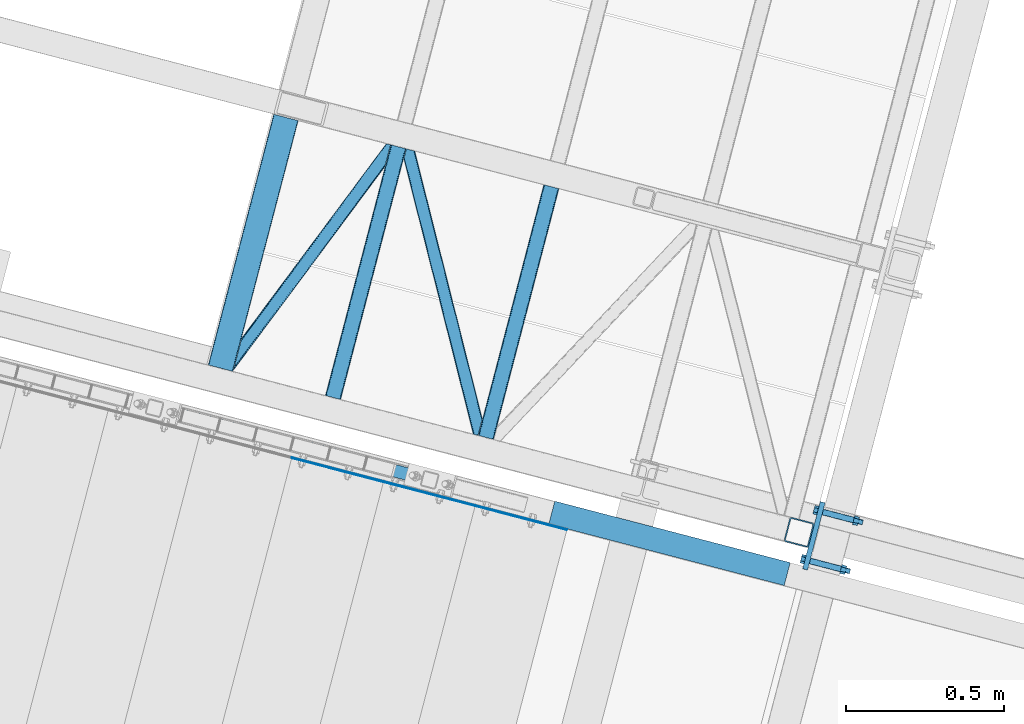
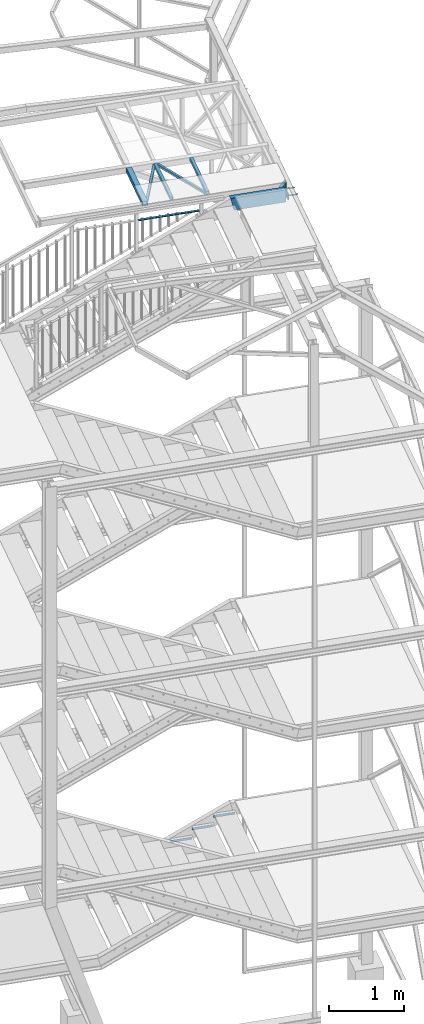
# One storey, part 81 of 169: 12 discrete accessories, 1 mechanical fastener, 6 elements without a shape of their own.
"""IFC2X3 building model written with IfcOpenShell, lengths in millimetres."""

from ifc_helpers import new_model, si_unit, frame, frame_2d, origin_with_axes, origin_2d_with_axis, place, context, subcontext, project, spatial, polyline, circle_curve, parameter, trimmed, segment, composite_curve, rectangle, hollow_rectangle, circle, u_section, outline, extrude, boolean, clip, halfspace, source, transform, mapped, material, type_object, element, aggregate, save


model = new_model("IFC2X3")

# Units and contexts
model_context = context("Model", 3, precision=1e-05, world=origin_with_axes())
body_context = subcontext(model_context, "Body", "Model", "MODEL_VIEW")
ifc_project = project(units=[si_unit("LENGTHUNIT", "METRE", prefix="MILLI"), si_unit("AREAUNIT", "SQUARE_METRE"), si_unit("VOLUMEUNIT", "CUBIC_METRE"), si_unit("MASSUNIT", "GRAM", prefix="KILO"), si_unit("TIMEUNIT", "SECOND"), si_unit("PLANEANGLEUNIT", "RADIAN"), si_unit("SOLIDANGLEUNIT", "STERADIAN"), si_unit("THERMODYNAMICTEMPERATUREUNIT", "DEGREE_CELSIUS"), si_unit("LUMINOUSINTENSITYUNIT", "LUMEN")], contexts=[model_context])

# Site, building, storey
site_placement = place(None, origin_with_axes())
site = spatial("IfcSite", under=ifc_project, at=site_placement, Name="Undefined", CompositionType="ELEMENT")
building_placement = place(site_placement, origin_with_axes())
building = spatial("IfcBuilding", under=site, at=building_placement, Name="Undefined", CompositionType="ELEMENT")
storey_placement = place(building_placement, origin_with_axes())
storey = spatial("IfcBuildingStorey", under=building, at=storey_placement, Name="Undefined", CompositionType="ELEMENT", Elevation=0.0)

# Assembly, discrete accessories
assembly_1_placement = place(storey_placement, origin_with_axes())
assembly_1 = element("IfcElementAssembly", 1, at=assembly_1_placement, inside=storey, Name="Steel Assembly", AssemblyPlace="NOTDEFINED", PredefinedType="RIGID_FRAME")
ifc_material_1 = material(Name="STEEL/S235")
discrete_accessory_type_1 = type_object("IfcDiscreteAccessoryType", Name="BLACHA")
discrete_accessory_1_placement = place(assembly_1_placement, frame((-23619.6925389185, 7802.58529070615, 13832.0645725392), z_axis=(-0.967563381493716, 0.252628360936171, -0.000118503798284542), x_axis=(0.252628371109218, 0.967563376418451, -0.000136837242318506)))
discrete_accessory_1 = element("IfcDiscreteAccessory", 2, at=discrete_accessory_1_placement, type_object=discrete_accessory_type_1, material=ifc_material_1, Name="BLACHA", ObjectType="BL16*100", context=body_context, shape_type="SweptSolid", body=[
    extrude(outline(polyline([(-2.8421709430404e-11, 50.0000000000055), (220.000000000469, 50.0000000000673), (220.000000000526, -49.9999999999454), (2.75122147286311e-11, -50.0000000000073), (-2.8421709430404e-11, 50.0000000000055)])), frame((4.54778590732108e-13, 0.0, -8.0), z_axis=(0.0, 0.0, 1.0), x_axis=(1.0, 0.0, 0.0)), (0.0, 0.0, 1.0), 16.0),
])
ifc_material_2 = material(Name="STEEL/S355")
discrete_accessory_type_2 = type_object("IfcDiscreteAccessoryType", Name="BEAM")
discrete_accessory_2_placement = place(assembly_1_placement, frame((-24895.1625822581, 9183.63611609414, 13995.6370238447), z_axis=(-3.45692487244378e-05, -0.000132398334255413, -0.999999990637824), x_axis=(-0.596941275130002, -0.802284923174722, 0.000126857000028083)))
discrete_accessory_2 = element("IfcDiscreteAccessory", 3, at=discrete_accessory_2_placement, type_object=discrete_accessory_type_2, material=ifc_material_2, Name="BEAM", ObjectType="SHS40*3", context=body_context, shape_type="CSG", body=[
    boolean("DIFFERENCE", boolean("DIFFERENCE", boolean("DIFFERENCE", boolean("DIFFERENCE", extrude(hollow_rectangle(XDim=40.0, YDim=40.0, WallThickness=3.0, InnerFilletRadius=3.0, OuterFilletRadius=6.0, at=origin_2d_with_axis()), frame((981.591567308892, 3.52627091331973e-12, -1.8190160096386e-12), z_axis=(-1.0, -3.46944695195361e-18, -1.38777878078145e-17), x_axis=(1.73472347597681e-18, -1.0, 0.0)), (0.0, 0.0, 1.0), 933.05), extrude(rectangle(XDim=82.0, YDim=82.0, at=origin_2d_with_axis()), frame((1123.75503580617, -57.4898587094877, 9.99999972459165), z_axis=(-0.927065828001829, 0.374898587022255, 4.63581631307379e-11), x_axis=(-0.374898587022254, -0.927065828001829, -1.56215044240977e-10)), (0.0, 0.0, 1.0), 306.7)), extrude(rectangle(XDim=52.0, YDim=52.0, at=origin_2d_with_axis()), frame((142.163468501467, -57.4898585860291, -5.01208772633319), z_axis=(-0.927065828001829, 0.374898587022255, 4.63581631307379e-11), x_axis=(-0.374898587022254, -0.927065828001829, -1.56215044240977e-10)), (0.0, 0.0, 1.0), 306.7)), halfspace(frame((142.595918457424, 339.283655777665, 9.99999977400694), z_axis=(-0.374898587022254, -0.927065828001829, -1.56215044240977e-10), x_axis=(0.0, 0.0, 1.0)), True)), halfspace(frame((42.4755557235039, -14.9959434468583, -1000.00000000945), z_axis=(0.927065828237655, -0.374898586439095, -5.81266221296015e-10), x_axis=(-0.374898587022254, -0.927065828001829, -1.56215044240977e-10)), True)),
])
discrete_accessory_3_placement = place(assembly_1_placement, frame((-24635.4675019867, 8175.32281435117, 13995.7615454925), z_axis=(-3.45692487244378e-05, -0.000132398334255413, -0.999999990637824), x_axis=(-0.244520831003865, 0.969644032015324, -0.000119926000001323)))
discrete_accessory_3 = element("IfcDiscreteAccessory", 4, at=discrete_accessory_3_placement, type_object=discrete_accessory_type_2, material=ifc_material_2, Name="BEAM", ObjectType="SHS40*3", context=body_context, shape_type="CSG", body=[
    boolean("DIFFERENCE", boolean("DIFFERENCE", boolean("DIFFERENCE", boolean("DIFFERENCE", extrude(hollow_rectangle(XDim=40.0, YDim=40.0, WallThickness=3.0, InnerFilletRadius=3.0, OuterFilletRadius=6.0, at=origin_2d_with_axis()), frame((991.329760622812, -1.99220176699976e-14, -1.34350235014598e-17), z_axis=(-1.0, -3.46944695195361e-18, -1.38777878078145e-17), x_axis=(1.73472347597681e-18, -1.0, 0.0)), (0.0, 0.0, 1.0), 944.34), extrude(rectangle(XDim=52.0, YDim=52.0, at=origin_2d_with_axis()), frame((926.733814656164, -68.1548997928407, -5.0120872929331), z_axis=(0.876419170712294, 0.481548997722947, 3.94778385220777e-10), x_axis=(-0.481548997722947, 0.876419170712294, -2.581353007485e-10)), (0.0, 0.0, 1.0), 283.07)), extrude(rectangle(XDim=52.0, YDim=52.0, at=origin_2d_with_axis()), frame((-111.582124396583, -68.1548997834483, -5.02690088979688), z_axis=(0.876419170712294, 0.481548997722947, 3.94778385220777e-10), x_axis=(-0.481548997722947, 0.876419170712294, -2.581353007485e-10)), (0.0, 0.0, 1.0), 283.07)), halfspace(frame((997.555402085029, -19.2619599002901, -1000.0000000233), z_axis=(-0.876419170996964, -0.481548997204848, -9.29587459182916e-10), x_axis=(-0.481548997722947, 0.876419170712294, -2.581353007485e-10)), True)), halfspace(frame((40.7621299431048, 19.2619598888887, -999.999999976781), z_axis=(0.876419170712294, 0.481548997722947, 3.94778385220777e-10), x_axis=(0.481548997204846, -0.876419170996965, 4.65497578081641e-10)), True)),
])
discrete_accessory_4_placement = place(assembly_1_placement, frame((-24422.7488900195, 9013.78263584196, 14000.6700821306), z_axis=(-3.45692487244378e-05, -0.000132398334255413, -0.999999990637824), x_axis=(-0.252628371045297, -0.967563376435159, 0.000136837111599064)))
discrete_accessory_4 = element("IfcDiscreteAccessory", 5, at=discrete_accessory_4_placement, type_object=discrete_accessory_type_2, material=ifc_material_2, Name="BEAM", ObjectType="SHS50*3", context=body_context, shape_type="Clipping", body=[
    clip(clip(extrude(hollow_rectangle(XDim=50.0, YDim=50.0, WallThickness=3.0, InnerFilletRadius=3.0, OuterFilletRadius=6.0, at=origin_2d_with_axis()), frame((820.000811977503, 3.24194136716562e-14, -2.22261665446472e-17), z_axis=(-1.0, -3.46944695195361e-18, -1.38777878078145e-17), x_axis=(1.73472347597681e-18, -1.0, 0.0)), (0.0, 0.0, 1.0), 820.0), halfspace(frame((820.000811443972, 1.99797796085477e-08, -999.999999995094), z_axis=(-1.0, -3.46944695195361e-18, -1.38777878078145e-17), x_axis=(0.0, 1.0, 0.0)), True)), halfspace(frame((9.08307811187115e-08, -1.23909558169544e-08, -1000.00000000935), z_axis=(1.0, 0.0, 0.0), x_axis=(1.73472347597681e-18, -1.0, 0.0)), True)),
])
discrete_accessory_5_placement = place(assembly_1_placement, frame((-24906.5305831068, 9140.09682036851, 14000.6552691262), z_axis=(-3.45692487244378e-05, -0.000132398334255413, -0.999999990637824), x_axis=(-0.252628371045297, -0.967563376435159, 0.000136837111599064)))
discrete_accessory_5 = element("IfcDiscreteAccessory", 6, at=discrete_accessory_5_placement, type_object=discrete_accessory_type_2, material=ifc_material_2, Name="BEAM", ObjectType="SHS50*3", context=body_context, shape_type="Clipping", body=[
    clip(clip(extrude(hollow_rectangle(XDim=50.0, YDim=50.0, WallThickness=3.0, InnerFilletRadius=3.0, OuterFilletRadius=6.0, at=origin_2d_with_axis()), frame((820.000811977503, 3.24194136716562e-14, -2.22261665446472e-17), z_axis=(-1.0, -3.46944695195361e-18, -1.38777878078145e-17), x_axis=(1.73472347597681e-18, -1.0, 0.0)), (0.0, 0.0, 1.0), 820.0), halfspace(frame((820.000811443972, 1.99797796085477e-08, -999.999999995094), z_axis=(-1.0, -3.46944695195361e-18, -1.38777878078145e-17), x_axis=(0.0, 1.0, 0.0)), True)), halfspace(frame((9.08307811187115e-08, -1.23909558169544e-08, -1000.00000000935), z_axis=(1.0, 0.0, 0.0), x_axis=(1.73472347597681e-18, -1.0, 0.0)), True)),
])
discrete_accessory_6_placement = place(assembly_1_placement, frame((-25252.486482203, 9271.7646543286, 13985.6377083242), z_axis=(-3.45692487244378e-05, -0.000132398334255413, -0.999999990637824), x_axis=(-0.252628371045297, -0.967563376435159, 0.000136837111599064)))
discrete_accessory_6 = element("IfcDiscreteAccessory", 7, at=discrete_accessory_6_placement, type_object=discrete_accessory_type_2, material=ifc_material_2, Name="BEAM", ObjectType="SHS80*4", context=body_context, shape_type="Clipping", body=[
    clip(clip(extrude(hollow_rectangle(XDim=80.0, YDim=80.0, WallThickness=4.0, InnerFilletRadius=4.0, OuterFilletRadius=8.0, at=origin_2d_with_axis()), frame((860.001565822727, -6.47347487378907e-15, 1.81901271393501e-12), z_axis=(-1.0, -3.46944695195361e-18, -1.38777878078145e-17), x_axis=(1.73472347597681e-18, -1.0, 0.0)), (0.0, 0.0, 1.0), 820.0), halfspace(frame((860.001565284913, -2.54185579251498e-08, -999.999999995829), z_axis=(-1.0, -3.46944695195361e-18, -1.38777878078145e-17), x_axis=(0.0, 1.0, 0.0)), True)), halfspace(frame((40.0007539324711, 3.95848473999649e-08, -1000.0000000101), z_axis=(1.0, 0.0, 0.0), x_axis=(1.73472347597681e-18, -1.0, 0.0)), True)),
])
discrete_accessory_7_placement = place(assembly_1_placement, frame((-23638.5816788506, 7920.17538129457, 13776.8184270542), z_axis=(5.90399999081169e-06, 0.000139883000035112, 0.999999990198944), x_axis=(-0.252628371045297, -0.967563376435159, 0.000136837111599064)))
discrete_accessory_7 = element("IfcDiscreteAccessory", 8, at=discrete_accessory_7_placement, type_object=discrete_accessory_type_2, material=ifc_material_2, Name="BEAM", ObjectType="SHS80*4", context=body_context, shape_type="Clipping", body=[
    clip(extrude(hollow_rectangle(XDim=80.0, YDim=80.0, WallThickness=4.0, InnerFilletRadius=4.0, OuterFilletRadius=8.0, at=origin_2d_with_axis()), frame((-2.27360148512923e-13, 3.63797796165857e-12, 249.527821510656), z_axis=(-2.54700353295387e-10, 0.0, -1.0), x_axis=(0.0, 1.0, 0.0)), (0.0, 0.0, 1.0), 249.53), halfspace(frame((-1.71173724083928e-08, 40.0000000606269, 248.999999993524), z_axis=(-1.16900541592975e-10, 0.780868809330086, -0.624695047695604), x_axis=(-1.0, -3.46944695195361e-18, -1.38777878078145e-17)), True)),
])

# Assembly, discrete accessory
assembly_2_placement = place(storey_placement, origin_with_axes())
assembly_2 = element("IfcElementAssembly", 9, at=assembly_2_placement, inside=storey, Name="Steel Assembly", AssemblyPlace="NOTDEFINED", PredefinedType="RIGID_FRAME")
discrete_accessory_type_3 = type_object("IfcDiscreteAccessoryType", Name="PORĘCZ")
discrete_accessory_8_placement = place(assembly_2_placement, frame((-24832.9220102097, 8092.50066490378, 13859.9945126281), z_axis=(3.4552000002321e-05, 0.000132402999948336, 0.999999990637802), x_axis=(-0.967563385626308, 0.252628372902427, -1.72000000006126e-07)))
discrete_accessory_8 = element("IfcDiscreteAccessory", 10, at=discrete_accessory_8_placement, type_object=discrete_accessory_type_3, material=ifc_material_1, Name="PORĘCZ", ObjectType="BL40*3", context=body_context, shape_type="Clipping", body=[
    clip(extrude(outline(polyline([(849.000001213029, 20.0000000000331), (849.000001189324, -19.9999999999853), (-3.27418092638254e-11, -20.0000000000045), (3.27418092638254e-11, 20.0000000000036), (849.000001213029, 20.0000000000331)])), frame((1.81898940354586e-12, -1.77635442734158e-15, -1.50000000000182), z_axis=(0.0, 0.0, 1.0), x_axis=(1.0, 0.0, 0.0)), (0.0, 0.0, 1.0), 3.0), halfspace(frame((849.000001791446, 1000.00000001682, -9.10404196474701e-09), z_axis=(-1.0, -3.46944695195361e-18, -1.38777878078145e-17), x_axis=(0.0, 0.0, 1.0)), True)),
])
aggregate(assembly_2, [discrete_accessory_8])

# Mechanical fastener
ifc_material_3 = material(Name="Undefined")
discrete_accessory_type_4 = type_object("IfcDiscreteAccessoryType", Name="Bolt assembly")
shared_shape = source(origin_with_axes(), body_context, "Body", "SweptSolid", [
    extrude(circle(Radius=9.5, at=origin_2d_with_axis()), frame((0.0, 3.89999843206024, 0.0), z_axis=(0.0, 1.0, 0.0), x_axis=(1.0, 0.0, 0.0)), (0.0, 0.0, 1.0), 100.1),
    extrude(outline(composite_curve([segment(polyline([(9.5, 10.0), (9.5, -10.0)]), True, "CONTINUOUS"), segment(trimmed(circle_curve(frame_2d((0.0, -10.0), x_axis=(1.0, 0.0)), 9.5), [parameter(0.0)], [parameter(3.14159265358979)], False, "PARAMETER"), True, "CONTINUOUS"), segment(polyline([(-9.5, -10.0), (-9.5, 10.0)]), True, "CONTINUOUS"), segment(trimmed(circle_curve(frame_2d((0.0, 10.0), x_axis=(-1.0, 0.0)), 9.5), [parameter(0.0)], [parameter(3.14159265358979)], False, "PARAMETER"), True, "DISCONTINUOUS")], self_intersect=False)), frame((0.0, -12.9000000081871, 0.0), z_axis=(0.0, 1.0, 0.0), x_axis=(1.0, 0.0, 0.0)), (0.0, 0.0, 1.0), 16.0),
    extrude(outline(polyline([(13.85640646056, 0.0), (6.92820323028, 12.0000000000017), (-6.92820323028, 12.0000000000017), (-13.85640646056, 0.0), (-6.92820323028, -12.0000000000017), (6.92820323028, -12.0000000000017), (13.85640646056, 0.0)])), frame((0.0, -26.0000000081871, 0.0), z_axis=(0.0, 1.0, 0.0), x_axis=(1.0, 0.0, 0.0)), (0.0, 0.0, 1.0), 10.0),
    extrude(circle(Radius=8.0, at=origin_2d_with_axis()), frame((0.0, -16.0000000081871, 0.0), z_axis=(0.0, 1.0, 0.0), x_axis=(1.0, 0.0, 0.0)), (0.0, 0.0, 1.0), 150.0),
    extrude(circle(Radius=15.0, at=origin_2d_with_axis()), frame((0.0, -16.0000000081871, 0.0), z_axis=(0.0, 1.0, 0.0), x_axis=(1.0, 0.0, 0.0)), (0.0, 0.0, 1.0), 3.0),
    extrude(circle(Radius=15.0, at=origin_2d_with_axis()), frame((0.0, 103.999998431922, 0.0), z_axis=(0.0, 1.0, 0.0), x_axis=(1.0, 0.0, 0.0)), (0.0, 0.0, 1.0), 3.0),
    extrude(outline(polyline([(13.85640646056, 0.0), (6.92820323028, 12.0000000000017), (-6.92820323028, 12.0000000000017), (-13.85640646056, 0.0), (-6.92820323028, -12.0000000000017), (6.92820323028, -12.0000000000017), (13.85640646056, 0.0)])), frame((0.0, 106.999998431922, 0.0), z_axis=(0.0, 1.0, 0.0), x_axis=(1.0, 0.0, 0.0)), (0.0, 0.0, 1.0), 13.0),
])
mechanical_fastener_placement = place(assembly_1_placement, frame((-23566.8553305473, 7985.15919013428, 13832.0388104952), z_axis=(-8.00909999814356e-05, 0.000162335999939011, 0.999999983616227), x_axis=(-0.252628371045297, -0.967563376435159, 0.000136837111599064)))
mechanical_fastener = element("IfcMechanicalFastener", 11, at=mechanical_fastener_placement, type_object=discrete_accessory_type_4, material=ifc_material_3, Name="Bolt assembly", NominalDiameter=16.0, NominalLength=150.0, context=body_context, shape_type="MappedRepresentation", body=[
    mapped(shared_shape, transform((0.0, 0.0, 0.0))),
    mapped(shared_shape, transform((159.999999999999, -3.45607986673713e-10, -1.67347025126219e-10))),
])

aggregate(assembly_1, [discrete_accessory_2, discrete_accessory_3, discrete_accessory_4, discrete_accessory_5, discrete_accessory_6, discrete_accessory_7, mechanical_fastener, discrete_accessory_1])

# Assembly, discrete accessory
assembly_3_placement = place(storey_placement, origin_with_axes())
assembly_3 = element("IfcElementAssembly", 12, at=assembly_3_placement, inside=storey, Name="Steel Assembly", AssemblyPlace="NOTDEFINED", PredefinedType="RIGID_FRAME")
ifc_material_4 = material(Name="STEEL/S235JR")
discrete_accessory_type_5 = type_object("IfcDiscreteAccessoryType", Name="ANGLE")
discrete_accessory_9_placement = place(assembly_3_placement, frame((-24663.8270586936, 8004.06188394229, 3930.09587438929), z_axis=(-0.252562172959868, -0.967580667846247, 0.0), x_axis=(0.967580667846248, -0.252562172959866, 0.0)))
discrete_accessory_9 = element("IfcDiscreteAccessory", 13, at=discrete_accessory_9_placement, type_object=discrete_accessory_type_5, material=ifc_material_4, Name="ANGLE", ObjectType="3*40", context=body_context, shape_type="SweptSolid", body=[
    extrude(rectangle(XDim=40.0, YDim=3.0, at=origin_2d_with_axis()), frame((300.000000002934, 1.81898940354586e-12, -1.81898940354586e-12), z_axis=(-1.0, -3.46944695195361e-18, -1.38777878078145e-17), x_axis=(1.73472347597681e-18, -1.0, 0.0)), (0.0, 0.0, 1.0), 300.0),
])
aggregate(assembly_3, [discrete_accessory_9])

assembly_4_placement = place(storey_placement, origin_with_axes())
assembly_4 = element("IfcElementAssembly", 14, at=assembly_4_placement, inside=storey, Name="Steel Assembly", AssemblyPlace="NOTDEFINED", PredefinedType="RIGID_FRAME")
discrete_accessory_10_placement = place(assembly_4_placement, frame((-24954.1012624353, 8079.83053675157, 3780.09587438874), z_axis=(-0.252562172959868, -0.967580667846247, 0.0), x_axis=(0.967580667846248, -0.252562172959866, 0.0)))
discrete_accessory_10 = element("IfcDiscreteAccessory", 15, at=discrete_accessory_10_placement, type_object=discrete_accessory_type_5, material=ifc_material_4, Name="ANGLE", ObjectType="3*40", context=body_context, shape_type="SweptSolid", body=[
    extrude(rectangle(XDim=40.0, YDim=3.0, at=origin_2d_with_axis()), frame((300.000000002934, 1.81898940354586e-12, -1.81898940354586e-12), z_axis=(-1.0, -3.46944695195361e-18, -1.38777878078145e-17), x_axis=(1.73472347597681e-18, -1.0, 0.0)), (0.0, 0.0, 1.0), 300.0),
])
aggregate(assembly_4, [discrete_accessory_10])

assembly_5_placement = place(storey_placement, origin_with_axes())
assembly_5 = element("IfcElementAssembly", 16, at=assembly_5_placement, inside=storey, Name="Steel Assembly", AssemblyPlace="NOTDEFINED", PredefinedType="RIGID_FRAME")
discrete_accessory_11_placement = place(assembly_5_placement, frame((-25244.375466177, 8155.59918956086, 3630.0958743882), z_axis=(-0.252562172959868, -0.967580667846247, 0.0), x_axis=(0.967580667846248, -0.252562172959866, 0.0)))
discrete_accessory_11 = element("IfcDiscreteAccessory", 17, at=discrete_accessory_11_placement, type_object=discrete_accessory_type_5, material=ifc_material_4, Name="ANGLE", ObjectType="3*40", context=body_context, shape_type="SweptSolid", body=[
    extrude(rectangle(XDim=40.0, YDim=3.0, at=origin_2d_with_axis()), frame((300.000000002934, 1.81898940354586e-12, -1.81898940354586e-12), z_axis=(-1.0, -3.46944695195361e-18, -1.38777878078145e-17), x_axis=(1.73472347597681e-18, -1.0, 0.0)), (0.0, 0.0, 1.0), 300.0),
])
aggregate(assembly_5, [discrete_accessory_11])

assembly_6_placement = place(storey_placement, origin_with_axes())
assembly_6 = element("IfcElementAssembly", 18, at=assembly_6_placement, inside=storey, Name="Steel Assembly", AssemblyPlace="NOTDEFINED", PredefinedType="RIGID_FRAME")
discrete_accessory_type_6 = type_object("IfcDiscreteAccessoryType", Name="BELKA")
discrete_accessory_12_placement = place(assembly_6_placement, frame((-23676.3784470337, 7788.02048472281, 13900.095770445), z_axis=(0.0, 0.0, 1.0), x_axis=(-0.967580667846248, 0.252562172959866, 0.0)))
discrete_accessory_12 = element("IfcDiscreteAccessory", 19, at=discrete_accessory_12_placement, type_object=discrete_accessory_type_6, material=ifc_material_1, Name="BELKA", ObjectType="UPN200", context=body_context, shape_type="Clipping", body=[
    clip(extrude(u_section(Depth=200.0, FlangeWidth=75.0, WebThickness=8.5, FlangeThickness=11.5, FilletRadius=11.5, EdgeRadius=6.0, at=origin_2d_with_axis()), frame((807.25877014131, 4.99559214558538e-13, 1.81898940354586e-12), z_axis=(-1.0, -3.46944695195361e-18, -1.38777878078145e-17), x_axis=(1.73472347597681e-18, -1.0, 0.0)), (0.0, 0.0, 1.0), 807.26), halfspace(frame((769.999999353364, -37.5000016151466, 99.9999999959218), z_axis=(-0.973248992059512, 5.5925641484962e-10, 0.229752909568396), x_axis=(1.73472347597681e-18, -1.0, 0.0)), True)),
])
aggregate(assembly_6, [discrete_accessory_12])

save(model, "model.ifc")
